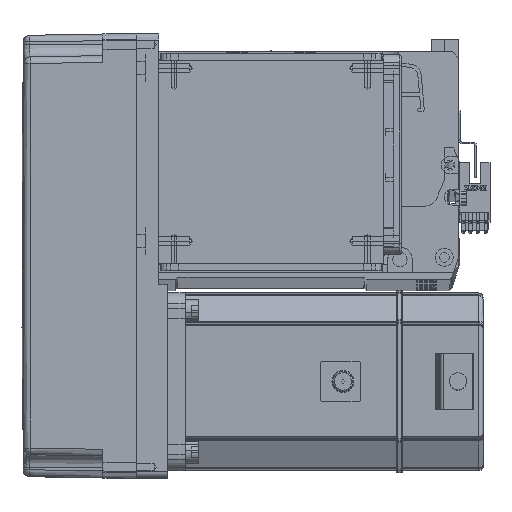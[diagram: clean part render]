
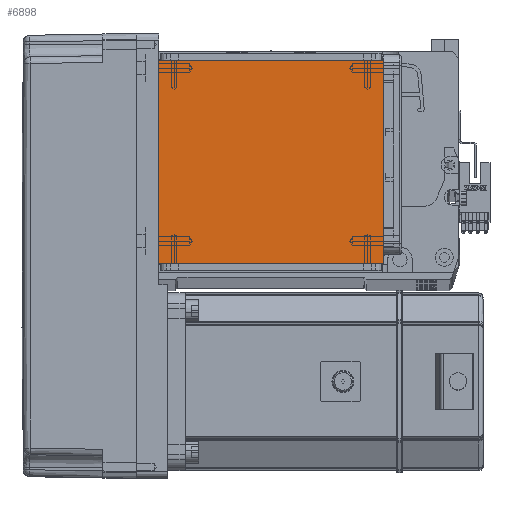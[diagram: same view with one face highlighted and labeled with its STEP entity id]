
A CAD part, top view. The second image highlights one B-rep face of the part: STEP entity #6898.
In plain terms, the highlighted planar face has unit normal (0, 0, 1).
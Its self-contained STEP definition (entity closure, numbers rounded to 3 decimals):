
#393 = DIRECTION ( 'NONE',  ( 0., 0., 1. ) ) ;
#683 = VERTEX_POINT ( 'NONE', #20212 ) ;
#2761 = ORIENTED_EDGE ( 'NONE', *, *, #37455, .T. ) ;
#5470 = ORIENTED_EDGE ( 'NONE', *, *, #58621, .T. ) ;
#6396 = DIRECTION ( 'NONE',  ( 0., 1., 0. ) ) ;
#6827 = EDGE_CURVE ( 'NONE', #56069, #47249, #7727, .T. ) ;
#6898 = ADVANCED_FACE ( 'NONE', ( #25063 ), #59922, .T. ) ;
#6968 = LINE ( 'NONE', #58746, #25044 ) ;
#7727 = LINE ( 'NONE', #38630, #50289 ) ;
#11394 = LINE ( 'NONE', #41858, #34169 ) ;
#15103 = CARTESIAN_POINT ( 'NONE',  ( -50.5, 111.5, 115. ) ) ;
#16584 = LINE ( 'NONE', #36496, #20543 ) ;
#17654 = DIRECTION ( 'NONE',  ( 1., 0., 0. ) ) ;
#19705 = ORIENTED_EDGE ( 'NONE', *, *, #6827, .F. ) ;
#19853 = AXIS2_PLACEMENT_3D ( 'NONE', #45240, #393, #20593 ) ;
#20212 = CARTESIAN_POINT ( 'NONE',  ( 50.5, 111.5, 115. ) ) ;
#20543 = VECTOR ( 'NONE', #6396, 1000. ) ;
#20593 = DIRECTION ( 'NONE',  ( 1., 0., 0. ) ) ;
#20720 = ORIENTED_EDGE ( 'NONE', *, *, #32939, .F. ) ;
#25044 = VECTOR ( 'NONE', #17654, 1000. ) ;
#25063 = FACE_OUTER_BOUND ( 'NONE', #62551, .T. ) ;
#31069 = DIRECTION ( 'NONE',  ( 0., -1., 0. ) ) ;
#32939 = EDGE_CURVE ( 'NONE', #41125, #683, #6968, .T. ) ;
#34169 = VECTOR ( 'NONE', #31069, 1000. ) ;
#36496 = CARTESIAN_POINT ( 'NONE',  ( 50.5, 122., 115. ) ) ;
#37455 = EDGE_CURVE ( 'NONE', #56069, #683, #16584, .T. ) ;
#38630 = CARTESIAN_POINT ( 'NONE',  ( -70.004, 20., 115. ) ) ;
#41125 = VERTEX_POINT ( 'NONE', #15103 ) ;
#41858 = CARTESIAN_POINT ( 'NONE',  ( -50.5, 122., 115. ) ) ;
#43653 = CARTESIAN_POINT ( 'NONE',  ( 50.5, 20., 115. ) ) ;
#45240 = CARTESIAN_POINT ( 'NONE',  ( 0., 0., 115. ) ) ;
#47249 = VERTEX_POINT ( 'NONE', #58845 ) ;
#50289 = VECTOR ( 'NONE', #54060, 1000. ) ;
#54060 = DIRECTION ( 'NONE',  ( -1., 0., 0. ) ) ;
#56069 = VERTEX_POINT ( 'NONE', #43653 ) ;
#58621 = EDGE_CURVE ( 'NONE', #41125, #47249, #11394, .T. ) ;
#58746 = CARTESIAN_POINT ( 'NONE',  ( -70.004, 111.5, 115. ) ) ;
#58845 = CARTESIAN_POINT ( 'NONE',  ( -50.5, 20., 115. ) ) ;
#59922 = PLANE ( 'NONE',  #19853 ) ;
#62551 = EDGE_LOOP ( 'NONE', ( #20720, #5470, #19705, #2761 ) ) ;
